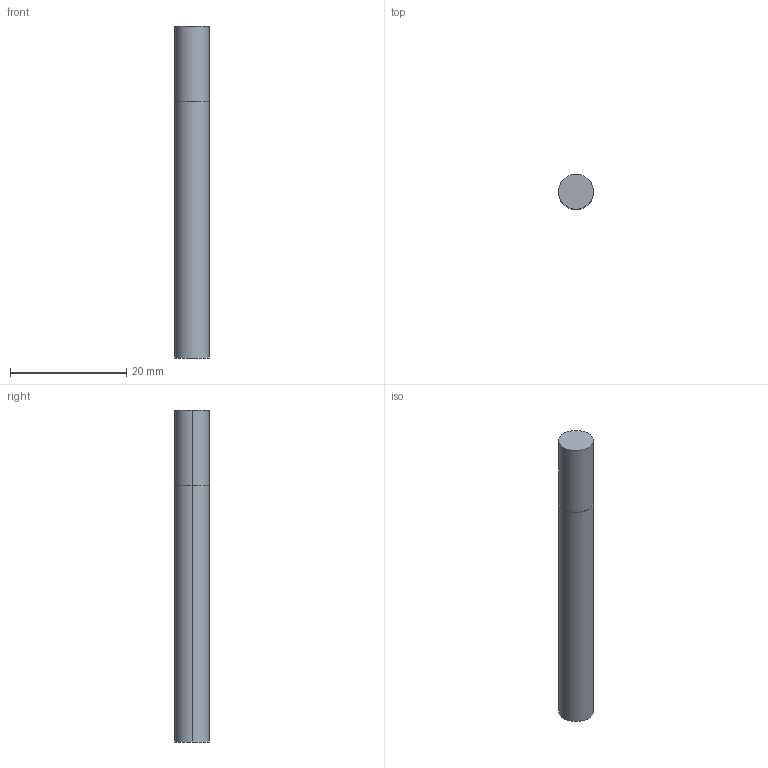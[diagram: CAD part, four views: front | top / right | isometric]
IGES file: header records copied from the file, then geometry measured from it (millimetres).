
Start section: 3D InterOp IGES (v. 2020 1.0.1), Spatial Corp. Copyright (c) 1999-2017.
Global section: file name: WZF13242P_6.igs; native system: Spatial Corp.; preprocessor: 3D InterOp GENERIC/IGES 3.0; author: Noname; organization: Noname; date: 20201007.092332; units: metre
Bounding box: 6 x 6 x 57 mm (x, y, z)
Surface area: 1131.3 mm2 (no closed solid volume)
Topology: 0 solids, 0 shells, 10 faces, 36 edges, 36 vertices
Faces by surface type: revolution 6, extrusion 4
